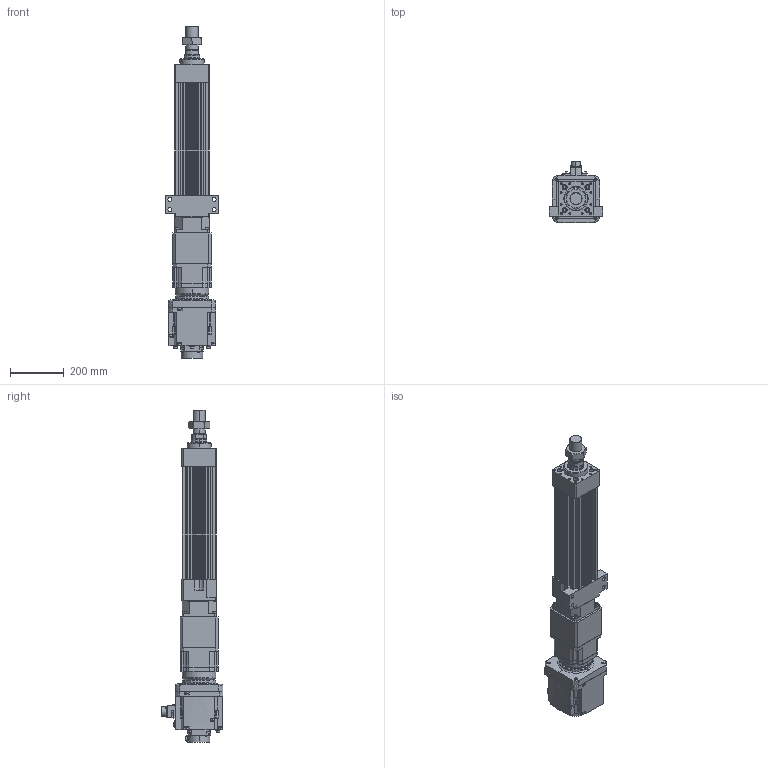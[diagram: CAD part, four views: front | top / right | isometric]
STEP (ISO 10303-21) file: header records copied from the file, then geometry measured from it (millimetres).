
FILE_DESCRIPTION (( 'STEP AP203' ), '1' );
FILE_NAME ('HES130NS(FS)(HS)-S200-W020G00-M-FFC.STEP', '2026-06-10T06:33:50', ( 'tms' ), ( '' ), 'SwSTEP 2.0', 'SolidWorks 2013', '' );
FILE_SCHEMA (( 'CONFIG_CONTROL_DESIGN' ));
Length unit declared in the file: millimetre
Products named in the file (9): AB1421; HES130-S-G142; AB1423; AB1422; HES130-FFC-200; HES130NS(FS)(HS)-S200-W020G00-M-FFC; M45X1.5P; HES130-M-ROD-200; HG-SR202B
Assembly tree (8 placements, depth 2):
  HES130NS(FS)(HS)-S200-W020G00-M-FFC
    HES130-FFC-200
    HES130-M-ROD-200
    M45X1.5P
    HES130-S-G142
    AB1421
    AB1422
    AB1423
    HG-SR202B
Bounding box: 200 x 228.85 x 1235 mm (x, y, z)
Volume: 11908954.1 mm3; surface area: 1380351.7 mm2
Topology: 5 solids, 19 shells, 1585 faces, 4100 edges, 2650 vertices
Faces by surface type: cylinder 710, plane 617, cone 176, bspline 76, torus 6
Entity records: 57272 total; most frequent: CARTESIAN_POINT 17113, DIRECTION 8420, ORIENTED_EDGE 8078, EDGE_CURVE 4061, AXIS2_PLACEMENT_3D 3174, VERTEX_POINT 2650, LINE 2072, VECTOR 2072
